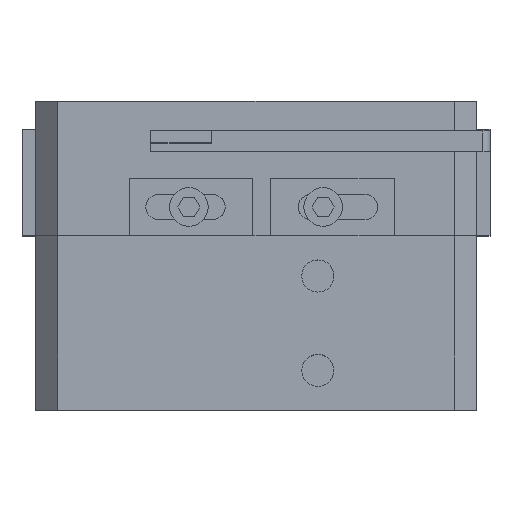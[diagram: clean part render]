
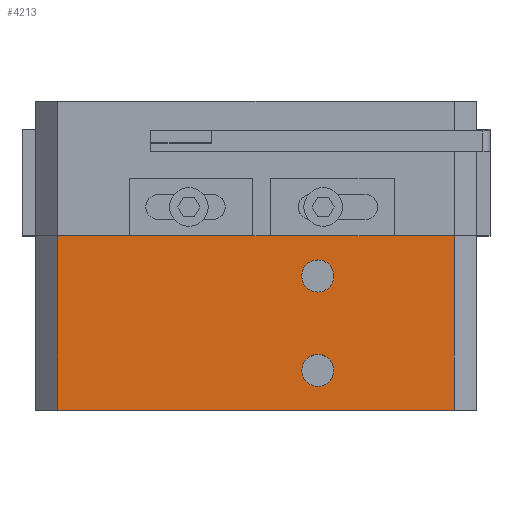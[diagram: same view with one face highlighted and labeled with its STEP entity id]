
A CAD part, top view. The second image highlights one B-rep face of the part: STEP entity #4213.
In plain terms, the highlighted planar face has unit normal (0, 0, 1) as drawn and (0, -1, 0) by its records, which use the part's own axes.
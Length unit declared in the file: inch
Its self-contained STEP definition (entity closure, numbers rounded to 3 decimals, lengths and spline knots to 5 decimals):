
#58 = CIRCLE ( 'NONE', #1285, 0.07295 ) ;
#59 = CARTESIAN_POINT ( 'NONE',  ( 1.14557, -0.02953, 0.52046 ) ) ;
#115 = DIRECTION ( 'NONE',  ( 0., 0., 1. ) ) ;
#202 = CARTESIAN_POINT ( 'NONE',  ( 1.14557, -0.02953, 0.23736 ) ) ;
#482 = ORIENTED_EDGE ( 'NONE', *, *, #2978, .T. ) ;
#579 = CARTESIAN_POINT ( 'NONE',  ( 1.14557, -0.02953, 0.59341 ) ) ;
#613 = CARTESIAN_POINT ( 'NONE',  ( 1.76457, -0.02953, 1.38641 ) ) ;
#1167 = CARTESIAN_POINT ( 'NONE',  ( 1.14557, -0.02953, 0.16441 ) ) ;
#1207 = FACE_OUTER_BOUND ( 'NONE', #7751, .T. ) ;
#1218 = AXIS2_PLACEMENT_3D ( 'NONE', #6163, #1594, #6943 ) ;
#1285 = AXIS2_PLACEMENT_3D ( 'NONE', #9257, #4693, #115 ) ;
#1348 = DIRECTION ( 'NONE',  ( 0., 0., 1. ) ) ;
#1431 = AXIS2_PLACEMENT_3D ( 'NONE', #3775, #6078, #1497 ) ;
#1497 = DIRECTION ( 'NONE',  ( 0., 0., -1. ) ) ;
#1557 = LINE ( 'NONE', #6684, #9684 ) ;
#1594 = DIRECTION ( 'NONE',  ( 0., 1., 0. ) ) ;
#1616 = VECTOR ( 'NONE', #3697, 39.37008 ) ;
#1932 = DIRECTION ( 'NONE',  ( 0., 0., 1. ) ) ;
#2097 = DIRECTION ( 'NONE',  ( 1., 0., 0. ) ) ;
#2126 = ORIENTED_EDGE ( 'NONE', *, *, #9046, .T. ) ;
#2241 = LINE ( 'NONE', #4193, #8108 ) ;
#2245 = CIRCLE ( 'NONE', #1218, 0.07295 ) ;
#2594 = CARTESIAN_POINT ( 'NONE',  ( -0.13543, -0.02953, 0.77591 ) ) ;
#2736 = ORIENTED_EDGE ( 'NONE', *, *, #5461, .T. ) ;
#2978 = EDGE_CURVE ( 'NONE', #3754, #8983, #5633, .T. ) ;
#3253 = VERTEX_POINT ( 'NONE', #202 ) ;
#3304 = ORIENTED_EDGE ( 'NONE', *, *, #3535, .T. ) ;
#3527 = CARTESIAN_POINT ( 'NONE',  ( 1.76457, -0.02953, -0.01559 ) ) ;
#3535 = EDGE_CURVE ( 'NONE', #4280, #7395, #1557, .T. ) ;
#3697 = DIRECTION ( 'NONE',  ( 0., 0., -1. ) ) ;
#3754 = VERTEX_POINT ( 'NONE', #59 ) ;
#3775 = CARTESIAN_POINT ( 'NONE',  ( -0.03543, -0.02953, 1.38641 ) ) ;
#3835 = CARTESIAN_POINT ( 'NONE',  ( 1.14557, -0.02953, 0.66636 ) ) ;
#4193 = CARTESIAN_POINT ( 'NONE',  ( -0.03543, -0.02953, 1.38641 ) ) ;
#4213 = ADVANCED_FACE ( 'NONE', ( #1207, #5266, #7056 ), #5314, .T. ) ;
#4280 = VERTEX_POINT ( 'NONE', #6171 ) ;
#4318 = CARTESIAN_POINT ( 'NONE',  ( 1.76457, -0.02953, 0.77591 ) ) ;
#4693 = DIRECTION ( 'NONE',  ( 0., 1., 0. ) ) ;
#4781 = AXIS2_PLACEMENT_3D ( 'NONE', #1167, #6518, #1932 ) ;
#5010 = CARTESIAN_POINT ( 'NONE',  ( 1.14557, -0.02953, 0.09146 ) ) ;
#5106 = VECTOR ( 'NONE', #7937, 39.37008 ) ;
#5266 = FACE_BOUND ( 'NONE', #5611, .T. ) ;
#5314 = PLANE ( 'NONE',  #1431 ) ;
#5461 = EDGE_CURVE ( 'NONE', #3253, #5488, #6910, .T. ) ;
#5462 = ORIENTED_EDGE ( 'NONE', *, *, #7713, .T. ) ;
#5488 = VERTEX_POINT ( 'NONE', #5010 ) ;
#5611 = EDGE_LOOP ( 'NONE', ( #2736, #5462 ) ) ;
#5633 = CIRCLE ( 'NONE', #7594, 0.07295 ) ;
#5917 = DIRECTION ( 'NONE',  ( 0., 1., 0. ) ) ;
#6078 = DIRECTION ( 'NONE',  ( 0., -1., 0. ) ) ;
#6160 = LINE ( 'NONE', #613, #1616 ) ;
#6163 = CARTESIAN_POINT ( 'NONE',  ( 1.14557, -0.02953, 0.16441 ) ) ;
#6171 = CARTESIAN_POINT ( 'NONE',  ( -0.03543, -0.02953, -0.01559 ) ) ;
#6263 = ORIENTED_EDGE ( 'NONE', *, *, #9838, .F. ) ;
#6518 = DIRECTION ( 'NONE',  ( 0., 1., 0. ) ) ;
#6611 = EDGE_CURVE ( 'NONE', #4280, #9780, #2241, .T. ) ;
#6684 = CARTESIAN_POINT ( 'NONE',  ( -0.13543, -0.02953, -0.01559 ) ) ;
#6910 = CIRCLE ( 'NONE', #4781, 0.07295 ) ;
#6943 = DIRECTION ( 'NONE',  ( 0., 0., 1. ) ) ;
#7056 = FACE_BOUND ( 'NONE', #7172, .T. ) ;
#7092 = ORIENTED_EDGE ( 'NONE', *, *, #9665, .F. ) ;
#7132 = LINE ( 'NONE', #2594, #5106 ) ;
#7172 = EDGE_LOOP ( 'NONE', ( #2126, #482 ) ) ;
#7395 = VERTEX_POINT ( 'NONE', #3527 ) ;
#7594 = AXIS2_PLACEMENT_3D ( 'NONE', #579, #5917, #1348 ) ;
#7713 = EDGE_CURVE ( 'NONE', #5488, #3253, #2245, .T. ) ;
#7751 = EDGE_LOOP ( 'NONE', ( #7092, #8009, #3304, #6263 ) ) ;
#7937 = DIRECTION ( 'NONE',  ( 1., 0., 0. ) ) ;
#8009 = ORIENTED_EDGE ( 'NONE', *, *, #6611, .F. ) ;
#8108 = VECTOR ( 'NONE', #8751, 39.37008 ) ;
#8751 = DIRECTION ( 'NONE',  ( 0., 0., 1. ) ) ;
#8841 = CARTESIAN_POINT ( 'NONE',  ( -0.03543, -0.02953, 0.77591 ) ) ;
#8983 = VERTEX_POINT ( 'NONE', #3835 ) ;
#9046 = EDGE_CURVE ( 'NONE', #8983, #3754, #58, .T. ) ;
#9257 = CARTESIAN_POINT ( 'NONE',  ( 1.14557, -0.02953, 0.59341 ) ) ;
#9326 = VERTEX_POINT ( 'NONE', #4318 ) ;
#9665 = EDGE_CURVE ( 'NONE', #9780, #9326, #7132, .T. ) ;
#9684 = VECTOR ( 'NONE', #2097, 39.37008 ) ;
#9780 = VERTEX_POINT ( 'NONE', #8841 ) ;
#9838 = EDGE_CURVE ( 'NONE', #9326, #7395, #6160, .T. ) ;
